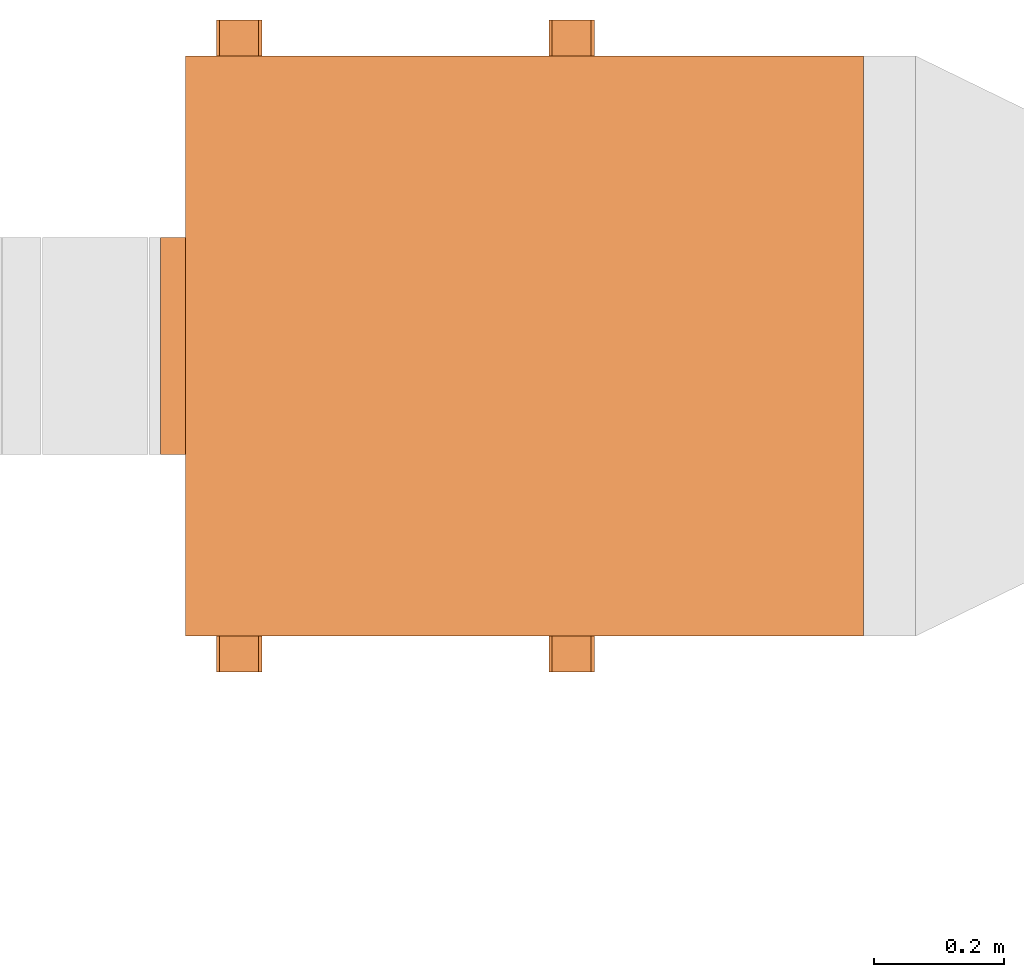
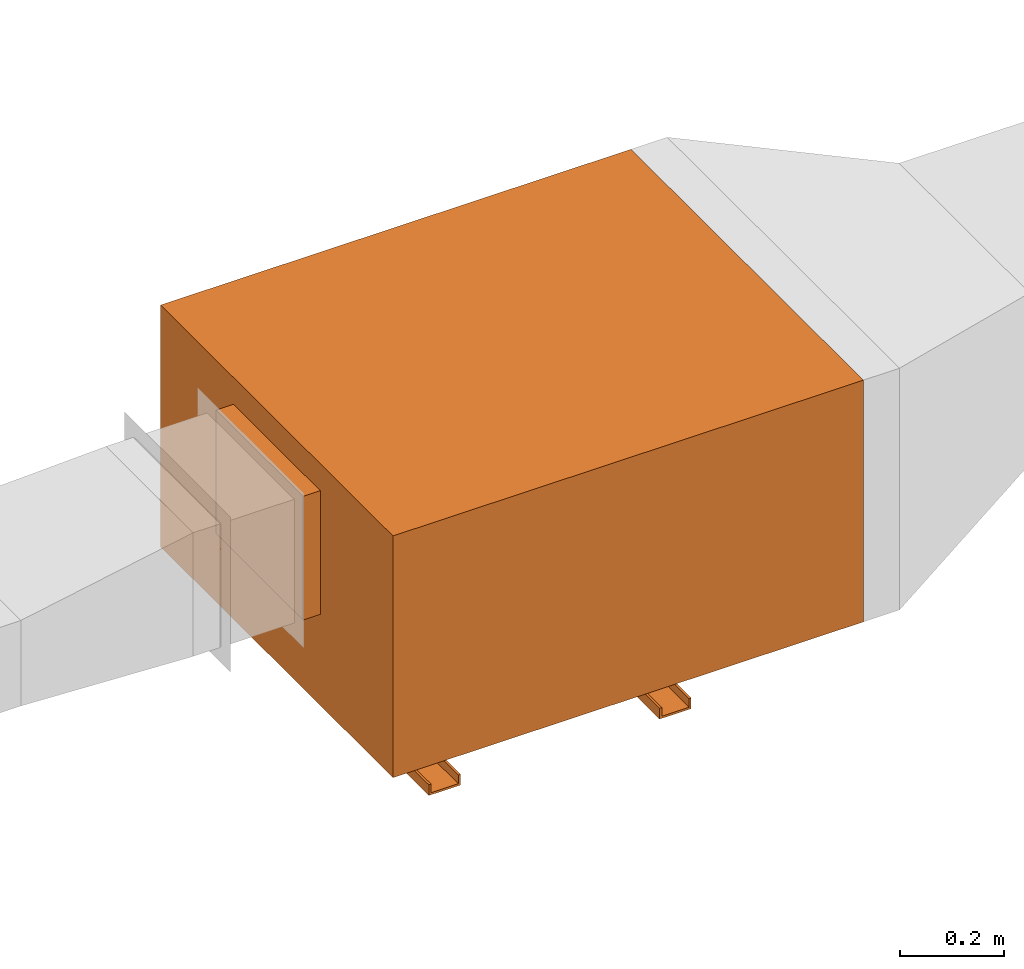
# One storey, part 13 of 15: 1 proxy.
"""IFC2X3 building model written with IfcOpenShell, lengths in millimetres."""

from ifc_helpers import new_model, entity, si_unit, converted_unit, derived_unit, direction, frame, origin, origin_2d_with_axis, place, context, subcontext, project, spatial, polyline, rectangle, outline, extrude, source, transform, mapped, material, type_object, type_shapes, element, save


model = new_model("IFC2X3")

# Units and contexts
model_context = context("Model", 3, precision=0.01, world=origin(), true_north=direction((6.123233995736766e-17, 1.0)))
body_context = subcontext(model_context, "Body", "Model", "MODEL_VIEW")
ifc_project = project(units=[si_unit("LENGTHUNIT", "METRE", prefix="MILLI"), converted_unit("PLANEANGLEUNIT", "DEGREE", entity("IfcPlaneAngleMeasure", 0.017453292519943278), si_unit("PLANEANGLEUNIT", "RADIAN"), dimensions=[0, 0, 0, 0, 0, 0, 0]), si_unit("AREAUNIT", "SQUARE_METRE"), derived_unit("THERMALTRANSMITTANCEUNIT", [(si_unit("MASSUNIT", "GRAM", prefix="KILO"), 1), (si_unit("THERMODYNAMICTEMPERATUREUNIT", "KELVIN"), -1), (si_unit("TIMEUNIT", "SECOND"), -3)])], contexts=[model_context])

# Site, building, storey
site_placement = place(None, origin())
site = spatial("IfcSite", under=ifc_project, at=site_placement, Name="Default", CompositionType="ELEMENT")
building_placement = place(site_placement, origin())
building = spatial("IfcBuilding", under=site, at=building_placement, Name="Praça Pedro II, 1301 - Centro (Sul), Teresina - PI, 64001-100", CompositionType="ELEMENT")
storey_placement = place(building_placement, frame((0.0, 0.0, 3020.0)))
storey = spatial("IfcBuildingStorey", under=building, at=storey_placement, Name="1PAV", CompositionType="ELEMENT", Elevation=3020.0)

# Proxy
ifc_material = material(Name="Steel, Galvanized")
building_element_proxy_type = type_object("IfcBuildingElementProxyType", Name="SGSD 277_457:SGSD 277", PredefinedType="NOTDEFINED", material=ifc_material)
shared_shape = source(origin(), body_context, "Body", "SweptSolid", [
    extrude(rectangle(XDim=889.9999999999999, YDim=1039.9999999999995, at=origin_2d_with_axis()), frame((0.0, 0.0, 0.0), z_axis=(0.0, 0.0, 1.0), x_axis=(-1.0, 0.0, 0.0)), (0.0, 0.0, 1.0), 565.0000000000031),
    extrude(rectangle(XDim=332.99999999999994, YDim=37.9999999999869, at=origin_2d_with_axis()), frame((0.0, -539.0, 212.95364182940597), z_axis=(0.0, 0.0, 1.0), x_axis=(-1.0, 0.0, 0.0)), (0.0, 0.0, 1.0), 289.00000000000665),
    extrude(outline(polyline([(-11.24999999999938, -35.0), (13.750000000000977, -35.0), (13.750000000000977, 35.0), (-11.249999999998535, 35.0), (-11.249999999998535, 30.0), (8.749999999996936, 30.0), (8.749999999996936, -30.0), (-11.24999999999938, -30.0), (-11.24999999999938, -35.0)])), frame((-500.0, -437.49999999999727, -11.24999999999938), z_axis=(1.0, 0.0, 0.0), x_axis=(0.0, 0.0, -1.0)), (0.0, 0.0, 1.0), 999.9999999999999),
    extrude(outline(polyline([(-11.249999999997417, -35.0), (13.750000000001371, -35.0), (13.750000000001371, 35.0), (-11.249999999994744, 35.0), (-11.249999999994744, 30.0), (8.749999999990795, 30.0), (8.749999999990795, -30.0), (-11.249999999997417, -30.0), (-11.249999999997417, -35.0)])), frame((-500.0, 72.50000000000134, -11.24999999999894), z_axis=(1.0, 0.0, 0.0), x_axis=(0.0, 0.0, -1.0)), (0.0, 0.0, 1.0), 999.9999999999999),
])
type_shapes(building_element_proxy_type, [shared_shape])
proxy_placement = place(storey_placement, frame((12585.711774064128, -51563.17265781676, 1267.9435676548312), z_axis=(0.0, 0.0, 1.0), x_axis=(0.0, -1.0, 0.0)))
element("IfcBuildingElementProxy", 1, at=proxy_placement, inside=storey, type_object=building_element_proxy_type, material=ifc_material, Name="SGSD 277_457:SGSD 277", ObjectType="SGSD 277_457:SGSD 277", context=body_context, shape_type="MappedRepresentation", body=[
    mapped(shared_shape, transform((0.0, 0.0, 0.0), scale=1.0)),
])

save(model, "model.ifc")
